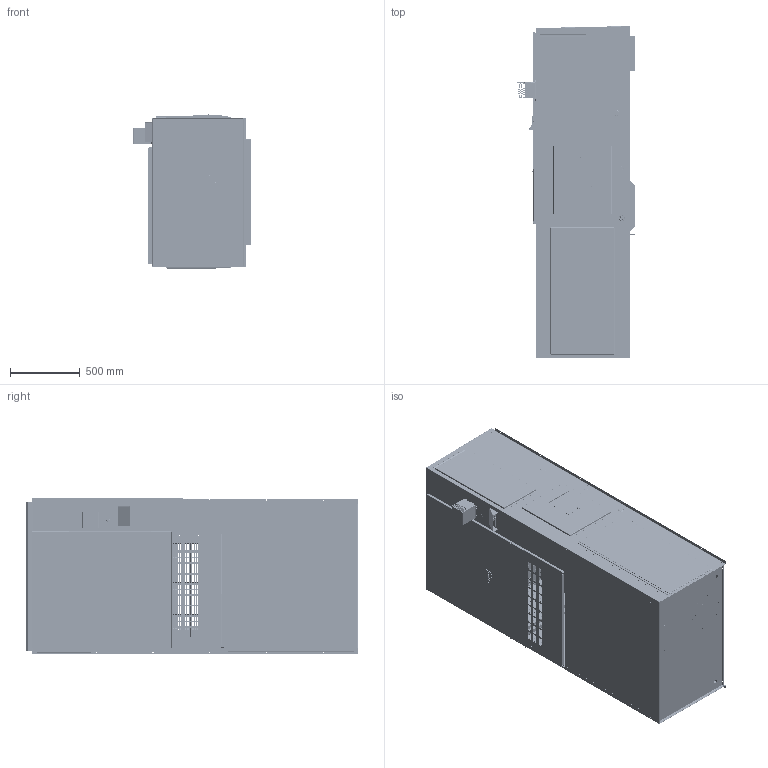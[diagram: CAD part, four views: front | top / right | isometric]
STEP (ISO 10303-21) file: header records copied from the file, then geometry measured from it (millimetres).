
FILE_DESCRIPTION (( 'STEP AP214' ), '1' );
FILE_NAME ('WG5SF.STEP', '2024-12-16T18:04:53', ( '' ), ( '' ), 'SwSTEP 2.0', 'SolidWorks 2024', '' );
FILE_SCHEMA (( 'AUTOMOTIVE_DESIGN' ));
Length unit declared in the file: inch
Products named in the file (119): 6094-011,nut; 118-159; 105-1126; 543-269; 521-661; 533-364; 541-398; 134-181; 5021-3172; 5021-1301; 152-327; 5021-0895; 5021-3165; 152-328; 5021-1875_uncompressed; 106-432; 104-1066; 126-640; 120-661; 140-398; 1171-070; 8611-047; 152-802; 1913-017-4108; 1171-023, receptacle; 517-463; 5021-3176_Standard Thickness; 1171-069; 523-123; 105X1073; 509-489; 5252-033; 553-802; 6094-011,body_THREADS; 5021M0883; 919-0009; 152-562; 104-1076; 100-1178; 5021-0887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
Assembly tree (142 placements, depth 4):
  WG5SF
    501-1178
      100-1178
      5021-0878
      1012-314  x4
      5021-0888
    126-640
    501-1179
      100-1179
      5021-3166
      5021-0879
      1012-314  x3
      1171-070
    104-1070
    105X1073
    105Y1073
    543-269
      142-269
      5021-3167
      1913-017-1306
    507-432
      106-432
      5021M0883
    553-802
      152-802
      1913-017-3212
      5021-3168_uncompressed
      1913-017-3300  x2
    553-327
      152-327
      7002-027-3000
      5021-0885
      1913-066
      1913-027-1412  x2
    553-562
      152-562
      5021-1875_uncompressed
      1913-066
      1171-069  x2
      1171-068  x2
    549-144
      148-144
      5021M0881
      5021-3169_uncompressed
      1012-314  x3
      1171-070
    533-364
      152-328
      132-364
      105-1126
      1171-023, receptacle
      1171-022, turn fastener
      1171-024, retainer clip
      1012-110  x2
      5021-3176_Standard Thickness
    152-801
    Copy of Assem6^WG5SF
      168-119, outer vent hood
      168-120, inner vent hood
      1921-051, gasket
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Bounding box: 841.46 x 2374.37 x 1121.89 mm (x, y, z)
Volume: 104948060.8 mm3; surface area: 43836658 mm2
Topology: 121 solids, 133 shells, 9426 faces, 24573 edges, 15153 vertices
Faces by surface type: cylinder 4726, plane 3616, torus 764, bspline 244, cone 52, sphere 24
Full cylindrical faces by diameter (mm): 9.525 x1
Entity records: 288564 total; most frequent: CARTESIAN_POINT 70565, ORIENTED_EDGE 45216, DIRECTION 43904, EDGE_CURVE 22625, AXIS2_PLACEMENT_3D 15712, VERTEX_POINT 13921, VECTOR 12480, LINE 12480
